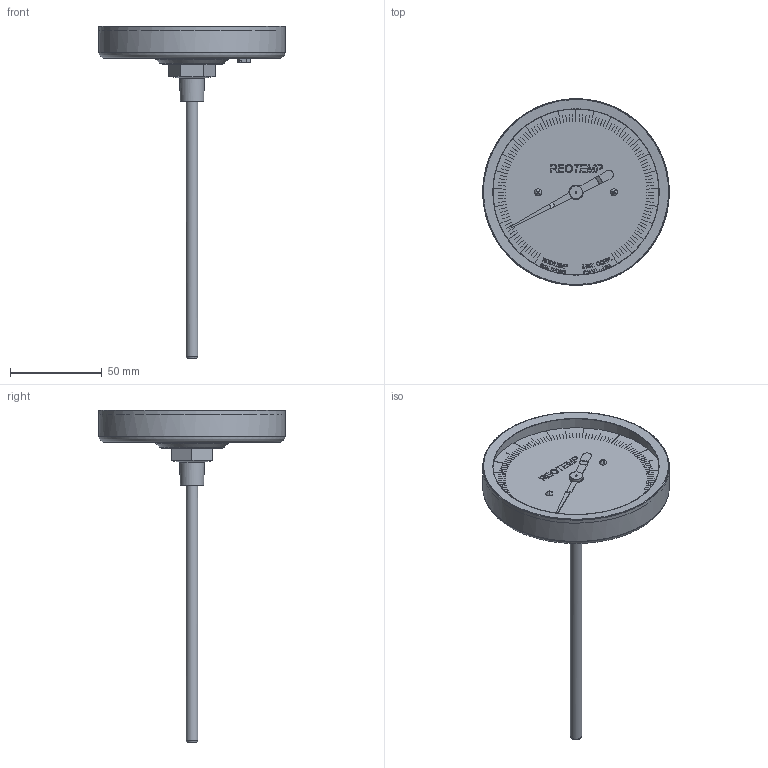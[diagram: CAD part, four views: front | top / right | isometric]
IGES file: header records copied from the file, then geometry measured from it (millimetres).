
Global section: file name: CC-quarter-NPT-IGS; native system: Autodesk Inventor 2014; preprocessor: unknown; author: Charles; date: 20151109.112236; units: inch
Bounding box: 101.59 x 101.59 x 180.79 mm (x, y, z)
Volume: 59332.4 mm3; surface area: 48168.2 mm2
Topology: 17 solids, 17 shells, 1275 faces, 3304 edges, 2200 vertices
Faces by surface type: bspline 1275
